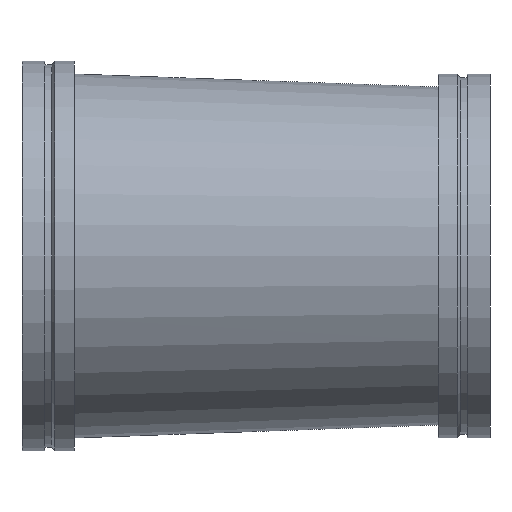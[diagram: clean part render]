
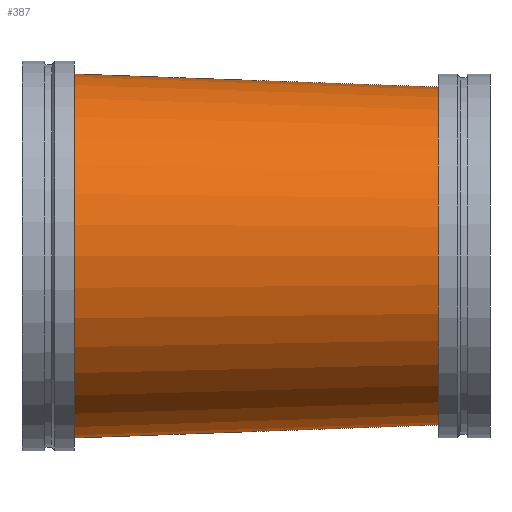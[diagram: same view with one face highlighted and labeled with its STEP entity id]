
A CAD part, front view. The second image highlights one B-rep face of the part: STEP entity #387.
In plain terms, the highlighted free-form (B-spline) face has degree [1, 2] with [2, 9] control points.
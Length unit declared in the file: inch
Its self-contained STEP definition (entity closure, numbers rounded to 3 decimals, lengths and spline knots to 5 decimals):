
#46=B_SPLINE_CURVE_WITH_KNOTS('',1,(#747,#748),.UNSPECIFIED.,.F.,.F.,(2,
2),(-2.00259,-0.00005),.UNSPECIFIED.);
#48=(
BOUNDED_SURFACE()
B_SPLINE_SURFACE(1,2,((#729,#730,#731,#732,#733,#734,#735,#736,#737),(#738,
#739,#740,#741,#742,#743,#744,#745,#746)),.UNSPECIFIED.,.F.,.T.,.F.)
B_SPLINE_SURFACE_WITH_KNOTS((2,2),(3,2,2,2,3),(-0.03567,2.03567),
(-3.14159,-1.5708,0.,1.5708,3.14159),
 .UNSPECIFIED.)
GEOMETRIC_REPRESENTATION_ITEM()
RATIONAL_B_SPLINE_SURFACE(((1.,0.707,1.,0.707,1.,
0.707,1.,0.707,1.),(1.,0.707,1.,0.707,
1.,0.707,1.,0.707,1.)))
REPRESENTATION_ITEM('')
SURFACE()
);
#98=FACE_OUTER_BOUND('',#120,.T.);
#120=EDGE_LOOP('',(#321,#322,#323,#324,#325,#326));
#129=CIRCLE('',#415,13.);
#130=CIRCLE('',#416,13.);
#153=CIRCLE('',#450,14.);
#154=CIRCLE('',#451,14.);
#166=VERTEX_POINT('',#628);
#167=VERTEX_POINT('',#629);
#190=VERTEX_POINT('',#695);
#191=VERTEX_POINT('',#696);
#203=EDGE_CURVE('',#166,#167,#129,.T.);
#204=EDGE_CURVE('',#167,#166,#130,.T.);
#235=EDGE_CURVE('',#190,#191,#153,.T.);
#236=EDGE_CURVE('',#191,#190,#154,.T.);
#243=EDGE_CURVE('',#167,#191,#46,.T.);
#321=ORIENTED_EDGE('',*,*,#203,.T.);
#322=ORIENTED_EDGE('',*,*,#243,.T.);
#323=ORIENTED_EDGE('',*,*,#236,.T.);
#324=ORIENTED_EDGE('',*,*,#235,.T.);
#325=ORIENTED_EDGE('',*,*,#243,.F.);
#326=ORIENTED_EDGE('',*,*,#204,.T.);
#387=ADVANCED_FACE('',(#98),#48,.F.);
#415=AXIS2_PLACEMENT_3D('',#630,#486,#487);
#416=AXIS2_PLACEMENT_3D('',#631,#488,#489);
#450=AXIS2_PLACEMENT_3D('',#697,#564,#565);
#451=AXIS2_PLACEMENT_3D('',#698,#566,#567);
#486=DIRECTION('center_axis',(-1.,0.,0.));
#487=DIRECTION('ref_axis',(0.,-1.,0.));
#488=DIRECTION('center_axis',(-1.,0.,0.));
#489=DIRECTION('ref_axis',(0.,-1.,0.));
#564=DIRECTION('center_axis',(1.,0.,0.));
#565=DIRECTION('ref_axis',(0.,1.,0.));
#566=DIRECTION('center_axis',(1.,0.,0.));
#567=DIRECTION('ref_axis',(0.,1.,0.));
#628=CARTESIAN_POINT('',(32.,-14.,0.));
#629=CARTESIAN_POINT('',(32.,-1.01654,12.99999));
#630=CARTESIAN_POINT('Origin',(32.,-1.,0.));
#631=CARTESIAN_POINT('Origin',(32.,-1.,0.));
#695=CARTESIAN_POINT('',(4.,14.,0.));
#696=CARTESIAN_POINT('',(4.,-0.01781,13.99999));
#697=CARTESIAN_POINT('Origin',(4.,0.,0.));
#698=CARTESIAN_POINT('Origin',(4.,0.,0.));
#729=CARTESIAN_POINT('Ctrl Pts',(3.50064,0.,
14.01782));
#730=CARTESIAN_POINT('Ctrl Pts',(3.00127,-14.,14.01782));
#731=CARTESIAN_POINT('Ctrl Pts',(3.00127,-14.,0.));
#732=CARTESIAN_POINT('Ctrl Pts',(3.00127,-14.,-14.01782));
#733=CARTESIAN_POINT('Ctrl Pts',(3.50064,0.,-14.01782));
#734=CARTESIAN_POINT('Ctrl Pts',(4.,14.,-14.01782));
#735=CARTESIAN_POINT('Ctrl Pts',(4.,14.,0.));
#736=CARTESIAN_POINT('Ctrl Pts',(4.,14.,14.01782));
#737=CARTESIAN_POINT('Ctrl Pts',(3.50064,0.,
14.01782));
#738=CARTESIAN_POINT('Ctrl Pts',(32.46252,-1.03304,12.98347));
#739=CARTESIAN_POINT('Ctrl Pts',(32.,-14.,12.98347));
#740=CARTESIAN_POINT('Ctrl Pts',(32.,-14.,0.));
#741=CARTESIAN_POINT('Ctrl Pts',(32.,-14.,-12.98347));
#742=CARTESIAN_POINT('Ctrl Pts',(32.46252,-1.03304,-12.98347));
#743=CARTESIAN_POINT('Ctrl Pts',(32.92503,11.93393,-12.98347));
#744=CARTESIAN_POINT('Ctrl Pts',(32.92503,11.93393,0.));
#745=CARTESIAN_POINT('Ctrl Pts',(32.92503,11.93393,12.98347));
#746=CARTESIAN_POINT('Ctrl Pts',(32.46252,-1.03304,12.98347));
#747=CARTESIAN_POINT('Ctrl Pts',(32.,-1.01654,12.99999));
#748=CARTESIAN_POINT('Ctrl Pts',(4.,-0.01781,13.99999));
